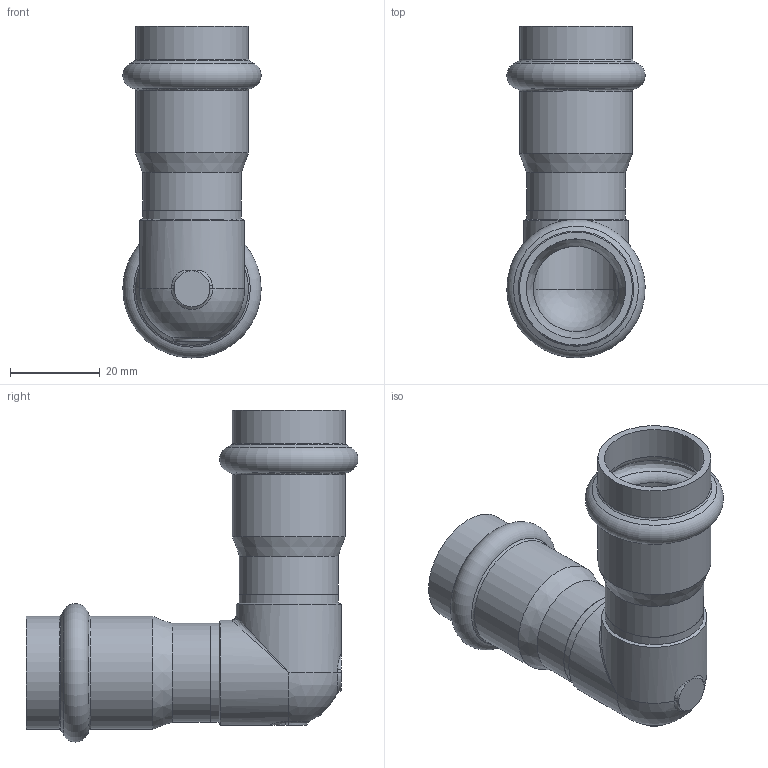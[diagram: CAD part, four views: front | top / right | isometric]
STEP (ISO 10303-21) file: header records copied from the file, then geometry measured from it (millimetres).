
FILE_DESCRIPTION((''),'2;1');
FILE_NAME('G:\Nirosan-Schmiedefeld\Technics\CAD\Bauteile VA\022\6909022(0).stp','2011-10-26T14:37:03',('herberg'),(''),'Autodesk Inventor 2009','Autodesk Inventor 2009','');
FILE_SCHEMA(('AUTOMOTIVE_DESIGN { 1 0 10303 214 1 1 1 1 }'));
Length unit declared in the file: millimetre
Products named in the file (3): 6909022(0); B_6909022(0); 6924322HM(1)
Assembly tree (3 placements, depth 2):
  6909022(0)
    B_6909022(0)
    6924322HM(1)  x2
Bounding box: 30.8 x 73.89 x 73.9 mm (x, y, z)
Volume: 14457.2 mm3; surface area: 18120.6 mm2
Topology: 3 solids, 3 shells, 64 faces, 134 edges, 67 vertices
Faces by surface type: cylinder 20, bspline 18, cone 10, plane 8, torus 6, sphere 2
Full cylindrical faces by diameter (mm): 19 x4, 22 x4, 22.15 x4, 23.4 x2, 25.15 x4
Entity records: 2137 total; most frequent: CARTESIAN_POINT 1224, DIRECTION 184, ORIENTED_EDGE 134, AXIS2_PLACEMENT_3D 92, EDGE_LOOP 74, EDGE_CURVE 67, CIRCLE 51, VERTEX_POINT 49
